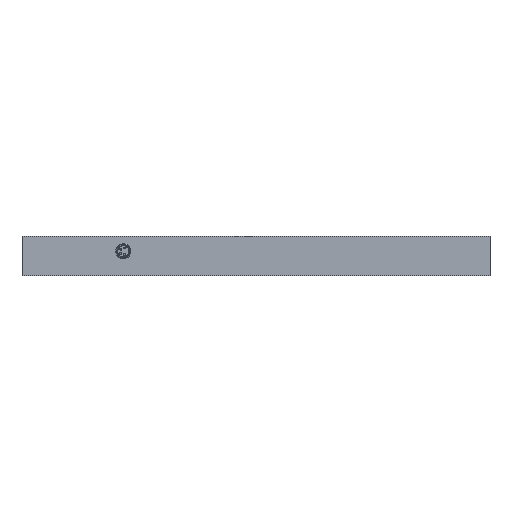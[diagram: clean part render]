
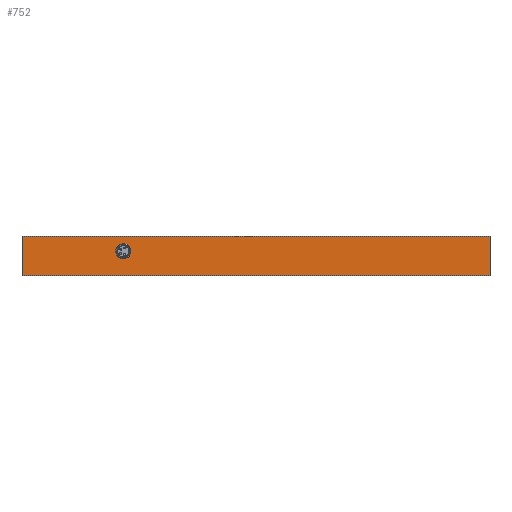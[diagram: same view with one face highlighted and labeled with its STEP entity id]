
A CAD part, front view. The second image highlights one B-rep face of the part: STEP entity #752.
In plain terms, the highlighted planar face has unit normal (0, -1, 0).
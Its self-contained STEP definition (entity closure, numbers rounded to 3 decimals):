
#752=ADVANCED_FACE('0:3989',(#1816,#1817),#1818,.T.);
#1816=FACE_OUTER_BOUND('',#3235,.T.);
#1817=FACE_BOUND('',#3236,.T.);
#1818=PLANE('',#3237);
#3235=EDGE_LOOP('',(#5485,#5486,#5487,#5488));
#3236=EDGE_LOOP('',(#5489,#5490));
#3237=AXIS2_PLACEMENT_3D('',#5491,#5492,#5493);
#5485=ORIENTED_EDGE('',*,*,#8900,.T.);
#5486=ORIENTED_EDGE('',*,*,#8713,.T.);
#5487=ORIENTED_EDGE('',*,*,#8901,.F.);
#5488=ORIENTED_EDGE('',*,*,#8902,.F.);
#5489=ORIENTED_EDGE('',*,*,#8820,.F.);
#5490=ORIENTED_EDGE('',*,*,#8548,.F.);
#5491=CARTESIAN_POINT('',(-60.0,-3.5,0.));
#5492=DIRECTION('',(0.0,-1.0,0.0));
#5493=DIRECTION('',(0.0,0.0,-1.0));
#8548=EDGE_CURVE('0:5063',#10192,#10195,#10196,.T.);
#8713=EDGE_CURVE('0:4799',#10475,#10473,#10476,.F.);
#8820=EDGE_CURVE('0:5063',#10195,#10192,#10604,.T.);
#8900=EDGE_CURVE('0:5192',#10688,#10475,#10689,.F.);
#8901=EDGE_CURVE('0:5195',#10690,#10473,#10691,.T.);
#8902=EDGE_CURVE('0:5198',#10688,#10690,#10692,.T.);
#10192=VERTEX_POINT('',#12650);
#10195=VERTEX_POINT('',#12654);
#10196=CIRCLE('',#12655,3.35);
#10473=VERTEX_POINT('',#13081);
#10475=VERTEX_POINT('',#13084);
#10476=LINE('',#13085,#13086);
#10604=CIRCLE('',#13307,3.35);
#10688=VERTEX_POINT('',#13395);
#10689=LINE('',#13396,#13397);
#10690=VERTEX_POINT('',#13398);
#10691=LINE('',#13399,#13400);
#10692=LINE('',#13401,#13402);
#12650=CARTESIAN_POINT('',(-66.65,-3.5,13.));
#12654=CARTESIAN_POINT('',(-73.35,-3.5,13.));
#12655=AXIS2_PLACEMENT_3D('',#16579,#16580,#16581);
#13081=CARTESIAN_POINT('',(-123.5,-3.5,21.0));
#13084=CARTESIAN_POINT('',(123.5,-3.5,21.0));
#13085=CARTESIAN_POINT('',(-60.0,-3.5,21.0));
#13086=VECTOR('',#16834,1.0);
#13307=AXIS2_PLACEMENT_3D('',#17027,#17028,#17029);
#13395=CARTESIAN_POINT('',(123.5,-3.5,0.));
#13396=CARTESIAN_POINT('',(123.5,-3.5,0.));
#13397=VECTOR('',#17136,0.);
#13398=CARTESIAN_POINT('',(-123.5,-3.5,0.));
#13399=CARTESIAN_POINT('',(-123.5,-3.5,0.));
#13400=VECTOR('',#17137,0.);
#13401=CARTESIAN_POINT('',(3.5,-3.5,0.));
#13402=VECTOR('',#17138,0.);
#16579=CARTESIAN_POINT('',(-70.0,-3.5,13.0));
#16580=DIRECTION('',(0.0,-1.0,0.0));
#16581=DIRECTION('',(1.0,0.0,0.));
#16834=DIRECTION('',(1.0,0.0,0.0));
#17027=CARTESIAN_POINT('',(-70.0,-3.5,13.0));
#17028=DIRECTION('',(0.0,-1.0,0.0));
#17029=DIRECTION('',(1.0,0.0,0.));
#17136=DIRECTION('',(0.0,0.0,-1.0));
#17137=DIRECTION('',(0.0,0.0,1.0));
#17138=DIRECTION('',(-1.0,0.0,0.0));
